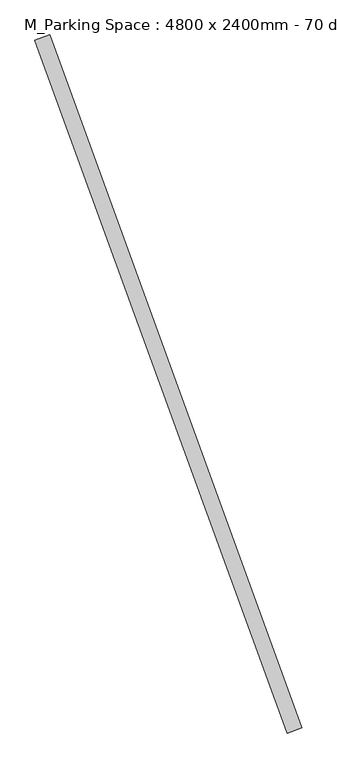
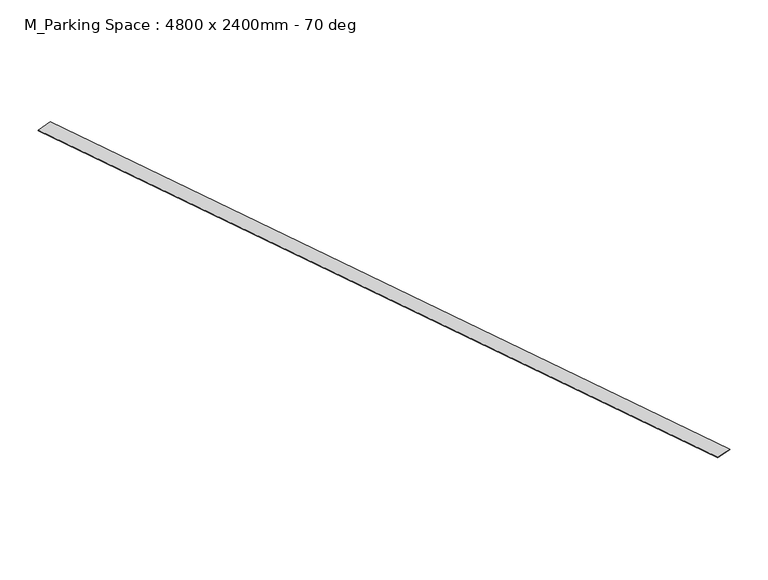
"""IFC4 building model written with IfcOpenShell, lengths in millimetres: proxy geometry, M_Parking Space : 4800 x 2400mm - 70 deg."""

from ifc_helpers import new_model, si_unit, origin, origin_with_axes, place, context, project, spatial, polyline, outline, extrude, source, transform, mapped, element, save


def m_parking_space_4800_x_2400mm_70_deg_b01bde45(model_context):
    return source(origin(), model_context, "Body", "SweptSolid", [
        extrude(outline(polyline([(-47.7363851, -17.3746233), (47.7363851, 17.3746233), (1689.2421417, -4492.6253767), (1593.7693714, -4527.3746233), (-47.7363851, -17.3746233)])), origin_with_axes(), (0.0, 0.0, 1.0), 3.175),
    ])


if __name__ == "__main__":
    model = new_model("IFC4")
    model_context = context("Model", 3, world=origin())
    ifc_project = project(units=[si_unit("LENGTHUNIT", "METRE", prefix="MILLI")], contexts=[model_context])
    site = spatial("IfcSite", under=ifc_project)
    building = spatial("IfcBuilding", under=site)
    placement = place(None, origin())
    m_parking_space_4800_x_2400mm_70_deg_shape = m_parking_space_4800_x_2400mm_70_deg_b01bde45(model_context)
    element("IfcBuildingElementProxy", 1, Name="M_Parking Space : 4800 x 2400mm - 70 deg", ObjectType="M_Parking Space : 4800 x 2400mm - 70 deg", at=placement, inside=building, context=model_context, shape_type="MappedRepresentation", body=[
        mapped(m_parking_space_4800_x_2400mm_70_deg_shape, transform((0.0, 0.0, 0.0), x_axis=(1.0, 0.0, 0.0), y_axis=(0.0, 1.0, 0.0), z_axis=(0.0, 0.0, 1.0))),
    ])
    save(model, "model.ifc")
